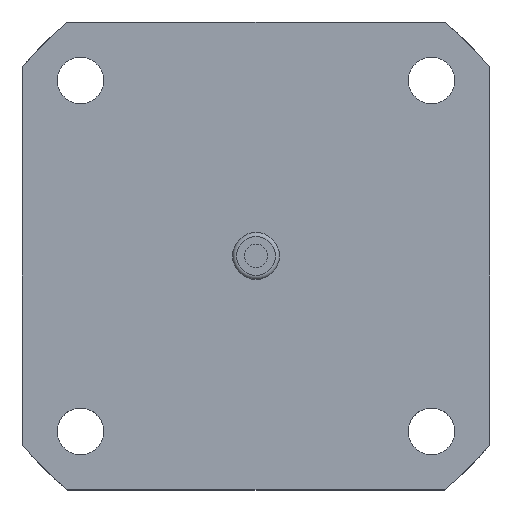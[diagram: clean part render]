
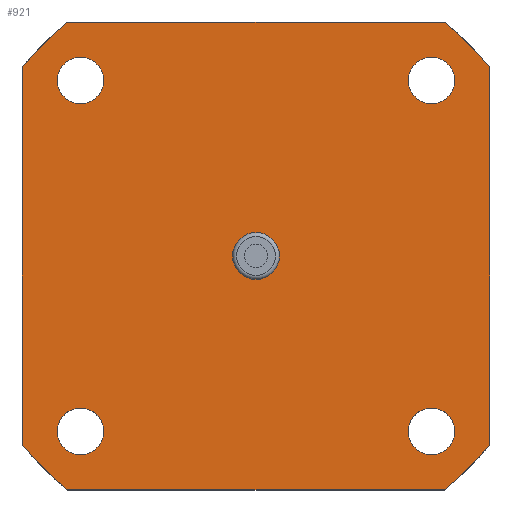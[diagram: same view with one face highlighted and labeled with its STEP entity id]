
A CAD part, top view. The second image highlights one B-rep face of the part: STEP entity #921.
In plain terms, the highlighted planar face has unit normal (0, 0, 1).
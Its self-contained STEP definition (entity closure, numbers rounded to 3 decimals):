
#67=LINE('',#1600,#109);
#71=LINE('',#1611,#113);
#72=LINE('',#1612,#114);
#73=LINE('',#1613,#115);
#109=VECTOR('',#1226,48.26);
#113=VECTOR('',#1240,48.26);
#114=VECTOR('',#1241,48.26);
#115=VECTOR('',#1242,48.26);
#126=PLANE('',#1016);
#146=FACE_BOUND('',#299,.T.);
#147=FACE_BOUND('',#300,.T.);
#148=FACE_BOUND('',#301,.T.);
#149=FACE_BOUND('',#302,.T.);
#150=FACE_BOUND('',#303,.T.);
#231=FACE_OUTER_BOUND('',#298,.T.);
#298=EDGE_LOOP('',(#741,#742,#743,#744,#745,#746,#747,#748));
#299=EDGE_LOOP('',(#749));
#300=EDGE_LOOP('',(#750));
#301=EDGE_LOOP('',(#751));
#302=EDGE_LOOP('',(#752));
#303=EDGE_LOOP('',(#753));
#390=CIRCLE('',#1005,38.5);
#391=CIRCLE('',#1009,38.5);
#392=CIRCLE('',#1013,38.5);
#393=CIRCLE('',#1015,38.5);
#394=CIRCLE('',#1017,3.);
#395=CIRCLE('',#1018,3.);
#396=CIRCLE('',#1019,3.);
#397=CIRCLE('',#1020,3.);
#398=CIRCLE('',#1021,3.);
#465=VERTEX_POINT('',#1501);
#466=VERTEX_POINT('',#1503);
#471=VERTEX_POINT('',#1563);
#472=VERTEX_POINT('',#1565);
#475=VERTEX_POINT('',#1597);
#476=VERTEX_POINT('',#1599);
#477=VERTEX_POINT('',#1603);
#478=VERTEX_POINT('',#1607);
#479=VERTEX_POINT('',#1614);
#480=VERTEX_POINT('',#1616);
#481=VERTEX_POINT('',#1618);
#482=VERTEX_POINT('',#1620);
#483=VERTEX_POINT('',#1622);
#564=EDGE_CURVE('',#466,#465,#390,.T.);
#573=EDGE_CURVE('',#472,#471,#391,.T.);
#579=EDGE_CURVE('',#475,#476,#67,.T.);
#582=EDGE_CURVE('',#475,#477,#392,.T.);
#583=EDGE_CURVE('',#478,#476,#393,.T.);
#585=EDGE_CURVE('',#478,#471,#71,.T.);
#586=EDGE_CURVE('',#466,#477,#72,.T.);
#587=EDGE_CURVE('',#472,#465,#73,.T.);
#588=EDGE_CURVE('',#479,#479,#394,.T.);
#589=EDGE_CURVE('',#480,#480,#395,.T.);
#590=EDGE_CURVE('',#481,#481,#396,.T.);
#591=EDGE_CURVE('',#482,#482,#397,.T.);
#592=EDGE_CURVE('',#483,#483,#398,.T.);
#741=ORIENTED_EDGE('',*,*,#573,.T.);
#742=ORIENTED_EDGE('',*,*,#585,.F.);
#743=ORIENTED_EDGE('',*,*,#583,.T.);
#744=ORIENTED_EDGE('',*,*,#579,.F.);
#745=ORIENTED_EDGE('',*,*,#582,.T.);
#746=ORIENTED_EDGE('',*,*,#586,.F.);
#747=ORIENTED_EDGE('',*,*,#564,.T.);
#748=ORIENTED_EDGE('',*,*,#587,.F.);
#749=ORIENTED_EDGE('',*,*,#588,.F.);
#750=ORIENTED_EDGE('',*,*,#589,.T.);
#751=ORIENTED_EDGE('',*,*,#590,.T.);
#752=ORIENTED_EDGE('',*,*,#591,.T.);
#753=ORIENTED_EDGE('',*,*,#592,.T.);
#921=ADVANCED_FACE('',(#231,#146,#147,#148,#149,#150),#126,.T.);
#1005=AXIS2_PLACEMENT_3D('',#1504,#1205,#1206);
#1009=AXIS2_PLACEMENT_3D('',#1566,#1217,#1218);
#1013=AXIS2_PLACEMENT_3D('',#1605,#1231,#1232);
#1015=AXIS2_PLACEMENT_3D('',#1608,#1235,#1236);
#1016=AXIS2_PLACEMENT_3D('',#1610,#1238,#1239);
#1017=AXIS2_PLACEMENT_3D('',#1615,#1243,#1244);
#1018=AXIS2_PLACEMENT_3D('',#1617,#1245,#1246);
#1019=AXIS2_PLACEMENT_3D('',#1619,#1247,#1248);
#1020=AXIS2_PLACEMENT_3D('',#1621,#1249,#1250);
#1021=AXIS2_PLACEMENT_3D('',#1623,#1251,#1252);
#1205=DIRECTION('center_axis',(0.,0.,1.));
#1206=DIRECTION('ref_axis',(-1.,0.,0.));
#1217=DIRECTION('center_axis',(0.,0.,1.));
#1218=DIRECTION('ref_axis',(-1.,0.,0.));
#1226=DIRECTION('',(0.,-1.,0.));
#1231=DIRECTION('center_axis',(0.,0.,1.));
#1232=DIRECTION('ref_axis',(-1.,0.,0.));
#1235=DIRECTION('center_axis',(0.,0.,1.));
#1236=DIRECTION('ref_axis',(-1.,0.,0.));
#1238=DIRECTION('center_axis',(0.,0.,1.));
#1239=DIRECTION('ref_axis',(1.,0.,0.));
#1240=DIRECTION('',(-1.,0.,0.));
#1241=DIRECTION('',(1.,0.,0.));
#1242=DIRECTION('',(0.,1.,0.));
#1243=DIRECTION('center_axis',(0.,0.,1.));
#1244=DIRECTION('ref_axis',(0.,-1.,0.));
#1245=DIRECTION('center_axis',(0.,0.,-1.));
#1246=DIRECTION('ref_axis',(-1.,0.,0.));
#1247=DIRECTION('center_axis',(0.,0.,-1.));
#1248=DIRECTION('ref_axis',(-1.,0.,0.));
#1249=DIRECTION('center_axis',(0.,0.,-1.));
#1250=DIRECTION('ref_axis',(-1.,0.,0.));
#1251=DIRECTION('center_axis',(0.,0.,-1.));
#1252=DIRECTION('ref_axis',(-1.,0.,0.));
#1501=CARTESIAN_POINT('',(-30.,24.13,0.));
#1503=CARTESIAN_POINT('',(-24.13,30.,0.));
#1504=CARTESIAN_POINT('Origin',(0.,0.,0.));
#1563=CARTESIAN_POINT('',(-24.13,-30.,0.));
#1565=CARTESIAN_POINT('',(-30.,-24.13,0.));
#1566=CARTESIAN_POINT('Origin',(0.,0.,0.));
#1597=CARTESIAN_POINT('',(30.,24.13,0.));
#1599=CARTESIAN_POINT('',(30.,-24.13,0.));
#1600=CARTESIAN_POINT('',(30.,30.,0.));
#1603=CARTESIAN_POINT('',(24.13,30.,0.));
#1605=CARTESIAN_POINT('Origin',(0.,0.,0.));
#1607=CARTESIAN_POINT('',(24.13,-30.,0.));
#1608=CARTESIAN_POINT('Origin',(0.,0.,0.));
#1610=CARTESIAN_POINT('Origin',(0.,-16.5,0.));
#1611=CARTESIAN_POINT('',(30.,-30.,0.));
#1612=CARTESIAN_POINT('',(-30.,30.,0.));
#1613=CARTESIAN_POINT('',(-30.,-30.,0.));
#1614=CARTESIAN_POINT('',(0.,-3.,0.));
#1615=CARTESIAN_POINT('Origin',(0.,0.,0.));
#1616=CARTESIAN_POINT('',(25.5,22.5,0.));
#1617=CARTESIAN_POINT('Origin',(22.5,22.5,0.));
#1618=CARTESIAN_POINT('',(-19.5,22.5,0.));
#1619=CARTESIAN_POINT('Origin',(-22.5,22.5,0.));
#1620=CARTESIAN_POINT('',(-19.5,-22.5,0.));
#1621=CARTESIAN_POINT('Origin',(-22.5,-22.5,0.));
#1622=CARTESIAN_POINT('',(25.5,-22.5,0.));
#1623=CARTESIAN_POINT('Origin',(22.5,-22.5,0.));
